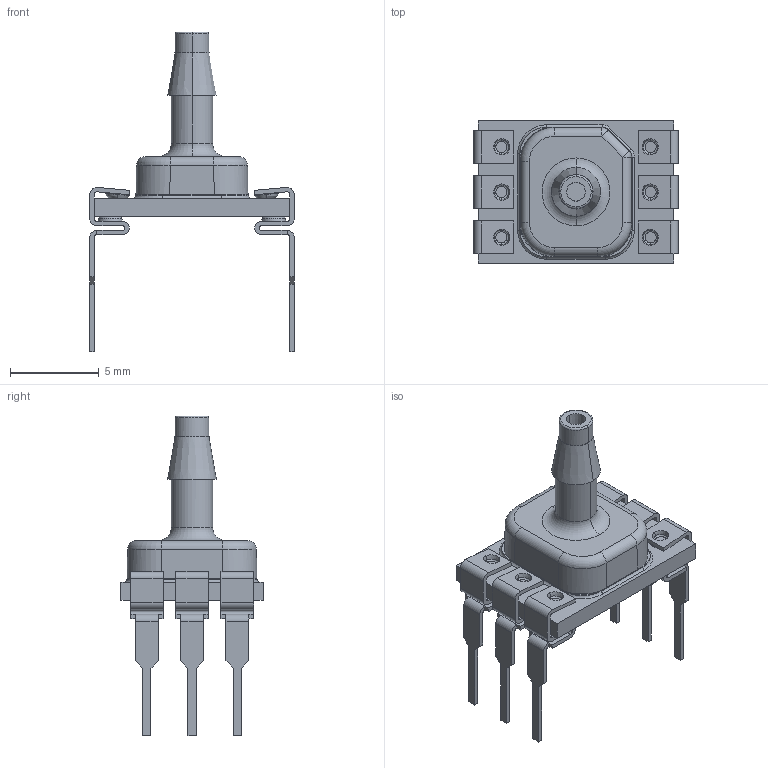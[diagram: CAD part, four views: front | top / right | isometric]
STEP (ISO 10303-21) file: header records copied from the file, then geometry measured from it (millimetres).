
FILE_DESCRIPTION((''),'2;1');
FILE_NAME('32303982_DRY','2015-04-28T',('H116907'),(''),'PRO/ENGINEER BY PARAMETRIC TECHNOLOGY CORPORATION, 2013410','PRO/ENGINEER BY PARAMETRIC TECHNOLOGY CORPORATION, 2013410','');
FILE_SCHEMA(('CONFIG_CONTROL_DESIGN'));
Length unit declared in the file: millimetre
Products named in the file (1): 32303982_DRY
Bounding box: 11.5 x 8 x 17.97 mm (x, y, z)
Volume: 245 mm3; surface area: 581.5 mm2
Topology: 1 solids, 4 shells, 367 faces, 966 edges, 622 vertices
Faces by surface type: plane 183, cylinder 77, cone 52, torus 41, bspline 12, sphere 2
Entity records: 12217 total; most frequent: CARTESIAN_POINT 2826, DIRECTION 2031, ORIENTED_EDGE 1928, EDGE_CURVE 964, AXIS2_PLACEMENT_3D 739, VERTEX_POINT 622, VECTOR 553, LINE 553
